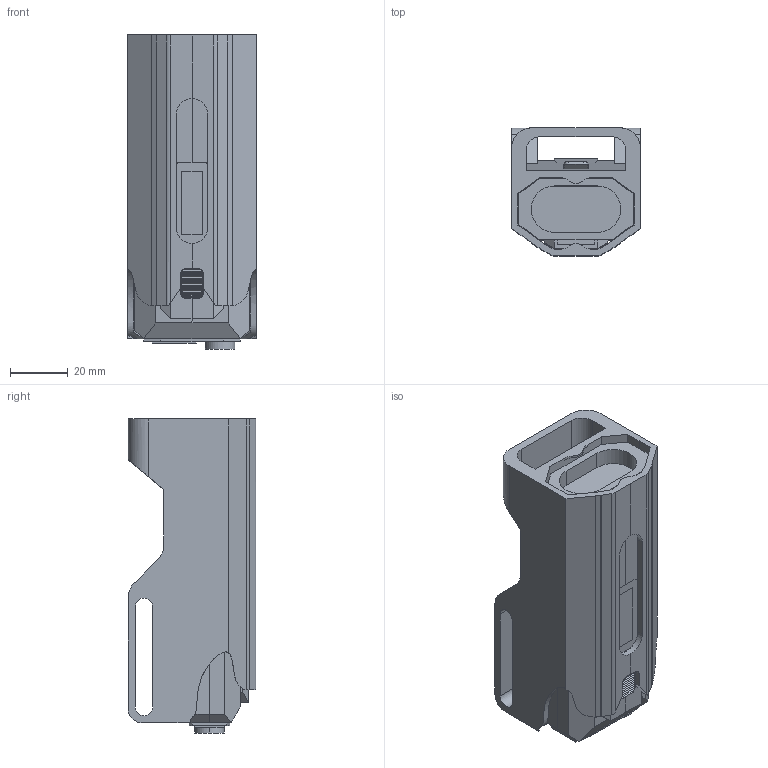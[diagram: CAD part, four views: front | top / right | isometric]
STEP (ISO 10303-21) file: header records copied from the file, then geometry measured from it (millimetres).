
FILE_DESCRIPTION(('CATIA V5 STEP Exchange'),'2;1');
FILE_NAME('C:\Users\Adrian\Documents\Nitecore_EDC37.stp','2025-11-13T03:03:27+00:00',('none'),('none'),'CATIA Version 5 Release 20 GA (IN-10)','CATIA V5 STEP AP203','none');
FILE_SCHEMA(('CONFIG_CONTROL_DESIGN'));
Length unit declared in the file: millimetre
Products named in the file (1): NitecoreEDC37CLIPANDCARRY_SHEATH
Bounding box: 44.5 x 44.2 x 108.5 mm (x, y, z)
Volume: 127437.1 mm3; surface area: 47827.9 mm2
Topology: 7 solids, 7 shells, 373 faces, 1068 edges, 704 vertices
Faces by surface type: plane 266, cylinder 88, torus 12, extrusion 7
Entity records: 12126 total; most frequent: CARTESIAN_POINT 2892, ORIENTED_EDGE 2136, DIRECTION 1520, EDGE_CURVE 1068, VECTOR 800, LINE 793, VERTEX_POINT 704, AXIS2_PLACEMENT_3D 435
